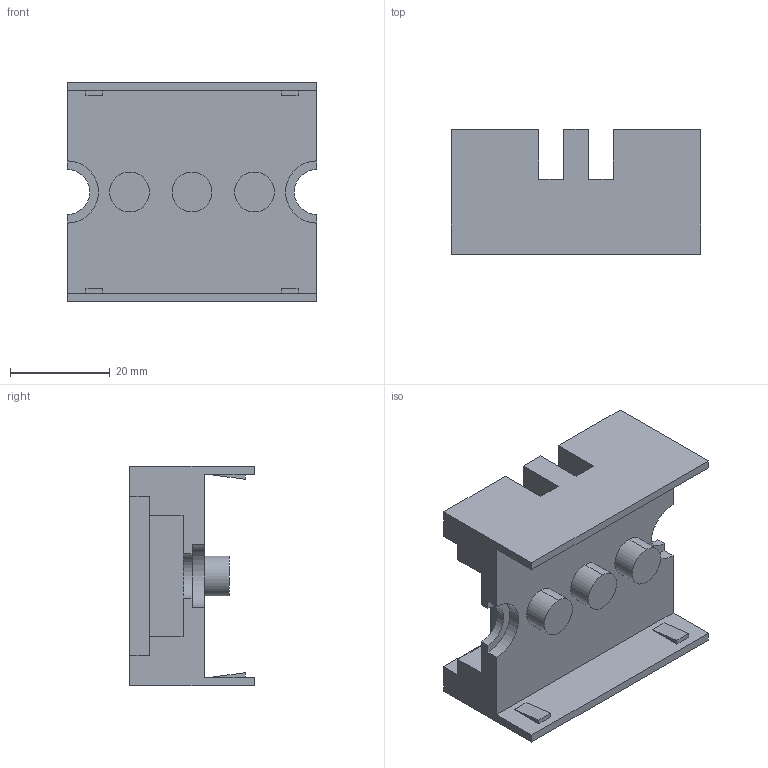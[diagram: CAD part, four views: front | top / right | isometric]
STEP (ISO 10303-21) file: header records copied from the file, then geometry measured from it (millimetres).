
FILE_DESCRIPTION (( 'STEP AP214' ), '1' );
FILE_NAME ('YIS40-05-02-050 Èçîëÿòîð øèíîäåðæàòåëÿ 50-5-2.STEP', '2025-08-19T12:57:30', ( '' ), ( '' ), 'SwSTEP 2.0', 'SolidWorks 2023', '' );
FILE_SCHEMA (( 'AUTOMOTIVE_DESIGN' ));
Length unit declared in the file: millimetre
Products named in the file (1): YIS40-05-02-050 Изолятор шинодержателя 50-5-2
Bounding box: 50 x 25 x 44 mm (x, y, z)
Volume: 24018.9 mm3; surface area: 11660.3 mm2
Topology: 1 solids, 1 shells, 75 faces, 198 edges, 132 vertices
Faces by surface type: plane 61, cylinder 10, bspline 4
Entity records: 2323 total; most frequent: CARTESIAN_POINT 442, ORIENTED_EDGE 396, DIRECTION 354, EDGE_CURVE 198, VECTOR 170, LINE 170, VERTEX_POINT 132, AXIS2_PLACEMENT_3D 92
